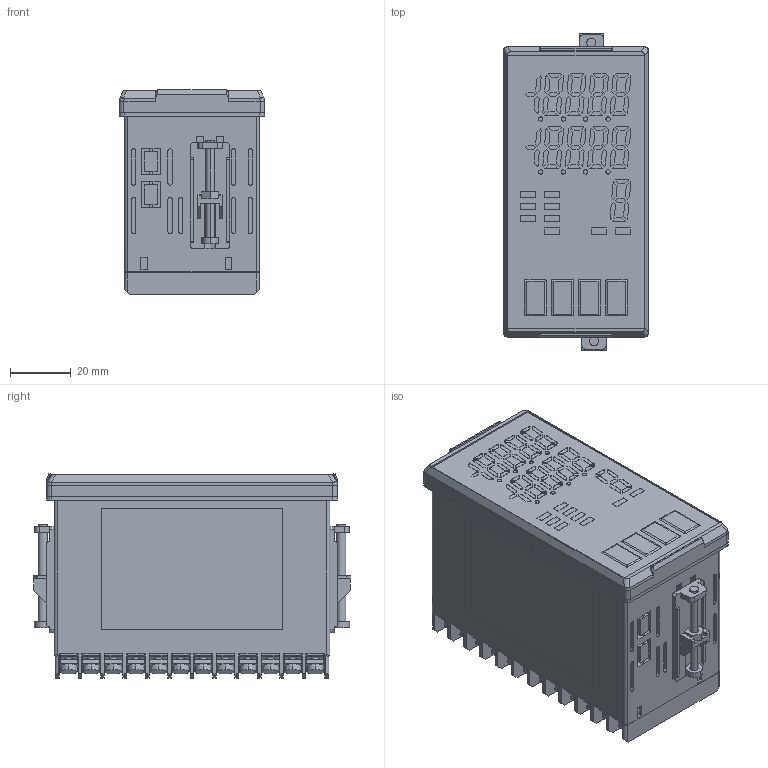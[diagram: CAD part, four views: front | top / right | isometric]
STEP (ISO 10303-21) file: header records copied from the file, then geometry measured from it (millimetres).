
FILE_DESCRIPTION (( 'STEP AP203' ), '1' );
FILE_NAME ('AS_BCR2_141105.STEP', '2014-11-28T09:30:05', ( 'soyama' ), ( 'Hewlett-Packard Company' ), 'SwSTEP 2.0', 'SolidWorks 2013', '' );
FILE_SCHEMA (( 'CONFIG_CONTROL_DESIGN' ));
Length unit declared in the file: millimetre
Products named in the file (6): AS_BCR2_141105; BCR2_141105; 僈僗働僢僩A_BCR2_141029; 取付具_BCD2_141029; 取付ネジ_BCD2_141029; AD_取付具_BCD2_141029
Assembly tree (6 placements, depth 3):
  AS_BCR2_141105
    BCR2_141105
    僈僗働僢僩A_BCR2_141029
    AD_取付具_BCD2_141029  x2
      取付具_BCD2_141029
      取付ネジ_BCD2_141029
Bounding box: 48 x 104.95 x 67.5 mm (x, y, z)
Volume: 251801.8 mm3; surface area: 47547.3 mm2
Topology: 6 solids, 6 shells, 1880 faces, 4873 edges, 3242 vertices
Faces by surface type: plane 1420, cylinder 460
Entity records: 54884 total; most frequent: CARTESIAN_POINT 9776, ORIENTED_EDGE 9260, DIRECTION 8944, EDGE_CURVE 4630, LINE 3756, VECTOR 3756, VERTEX_POINT 3082, AXIS2_PLACEMENT_3D 2594
